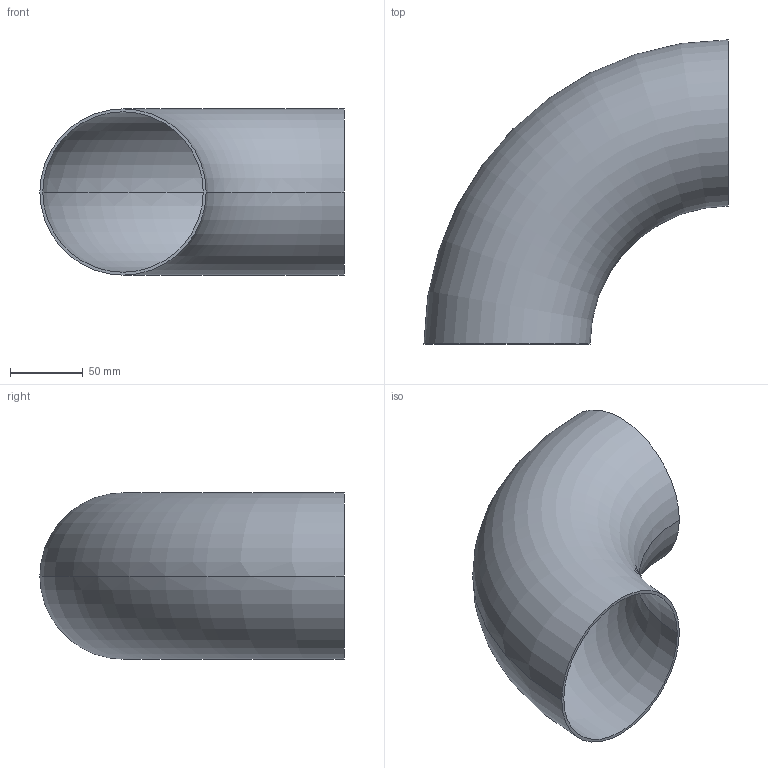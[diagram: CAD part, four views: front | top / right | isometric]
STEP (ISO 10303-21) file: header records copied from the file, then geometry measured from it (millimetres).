
FILE_DESCRIPTION (( 'STEP AP203' ), '1' );
FILE_NAME ('OT200-100-114_3x2_OSTP.step', '2020-12-16T02:44:15', ( '' ), ( '' ), 'SwSTEP 2.0', 'SolidWorks 2014', '' );
FILE_SCHEMA (( 'CONFIG_CONTROL_DESIGN' ));
Length unit declared in the file: millimetre
Products named in the file (1): OT200-100-114_3x2_OSTP
Bounding box: 209.15 x 209.15 x 114.3 mm (x, y, z)
Volume: 168470.2 mm3; surface area: 169881.4 mm2
Topology: 1 solids, 1 shells, 6 faces, 12 edges, 8 vertices
Faces by surface type: torus 4, plane 2
Entity records: 249 total; most frequent: DIRECTION 38, CARTESIAN_POINT 27, ORIENTED_EDGE 24, AXIS2_PLACEMENT_3D 19, CIRCLE 12, EDGE_CURVE 12, PERSON_AND_ORGANIZATION 8, VERTEX_POINT 8
